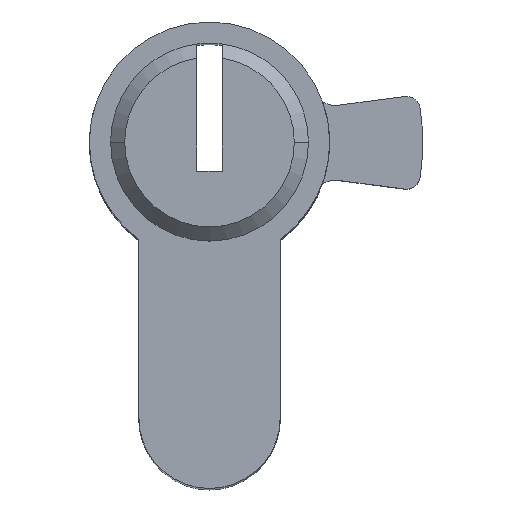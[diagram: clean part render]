
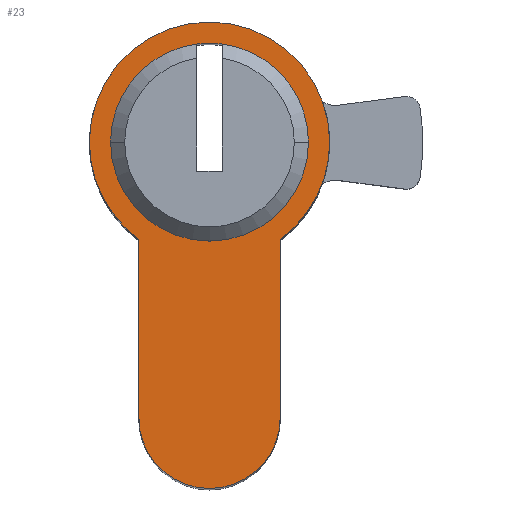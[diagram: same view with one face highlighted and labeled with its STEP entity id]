
A CAD part, top view. The second image highlights one B-rep face of the part: STEP entity #23.
In plain terms, the highlighted planar face has unit normal (0, 0, 1).
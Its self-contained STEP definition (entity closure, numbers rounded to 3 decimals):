
#23 = ADVANCED_FACE ( 'NONE', ( #1285, #68 ), #211, .T. ) ;
#27 = CARTESIAN_POINT ( 'NONE',  ( 0., 0., 30. ) ) ;
#34 = CARTESIAN_POINT ( 'NONE',  ( 7., 0., 30. ) ) ;
#41 = CARTESIAN_POINT ( 'NONE',  ( 5., -19.5, 30. ) ) ;
#68 = FACE_OUTER_BOUND ( 'NONE', #1658, .T. ) ;
#86 = CIRCLE ( 'NONE', #1634, 8.5 ) ;
#153 = CARTESIAN_POINT ( 'NONE',  ( 0., 0., 30. ) ) ;
#156 = VERTEX_POINT ( 'NONE', #1596 ) ;
#186 = CARTESIAN_POINT ( 'NONE',  ( -0.9, 6.942, 30. ) ) ;
#191 = DIRECTION ( 'NONE',  ( 1., 0., 0. ) ) ;
#211 = PLANE ( 'NONE',  #725 ) ;
#221 = CARTESIAN_POINT ( 'NONE',  ( 0., 0., 30. ) ) ;
#234 = EDGE_CURVE ( 'NONE', #1486, #935, #1326, .T. ) ;
#241 = DIRECTION ( 'NONE',  ( 1., 0., 0. ) ) ;
#271 = CARTESIAN_POINT ( 'NONE',  ( -5., -6.874, 30. ) ) ;
#279 = DIRECTION ( 'NONE',  ( 0., 0., 1. ) ) ;
#289 = DIRECTION ( 'NONE',  ( 1., 0., 0. ) ) ;
#293 = DIRECTION ( 'NONE',  ( 0., 1., 0. ) ) ;
#338 = CARTESIAN_POINT ( 'NONE',  ( 8.5, 0., 30. ) ) ;
#356 = CARTESIAN_POINT ( 'NONE',  ( 0., 0., 30. ) ) ;
#367 = DIRECTION ( 'NONE',  ( 0., 0., 1. ) ) ;
#372 = VECTOR ( 'NONE', #1065, 1000. ) ;
#379 = DIRECTION ( 'NONE',  ( 1., 0., 0. ) ) ;
#389 = ORIENTED_EDGE ( 'NONE', *, *, #1476, .T. ) ;
#420 = EDGE_CURVE ( 'NONE', #627, #1126, #671, .T. ) ;
#421 = AXIS2_PLACEMENT_3D ( 'NONE', #153, #279, #1368 ) ;
#434 = ORIENTED_EDGE ( 'NONE', *, *, #1223, .T. ) ;
#456 = CARTESIAN_POINT ( 'NONE',  ( 0., 0., 30. ) ) ;
#462 = DIRECTION ( 'NONE',  ( 1., 0., 0. ) ) ;
#525 = CARTESIAN_POINT ( 'NONE',  ( 5., -6.874, 30. ) ) ;
#534 = AXIS2_PLACEMENT_3D ( 'NONE', #1583, #367, #379 ) ;
#550 = DIRECTION ( 'NONE',  ( 1., 0., 0. ) ) ;
#553 = ORIENTED_EDGE ( 'NONE', *, *, #1142, .F. ) ;
#560 = CIRCLE ( 'NONE', #1728, 7. ) ;
#567 = CARTESIAN_POINT ( 'NONE',  ( 0.9, 6.942, 30. ) ) ;
#573 = VERTEX_POINT ( 'NONE', #944 ) ;
#617 = AXIS2_PLACEMENT_3D ( 'NONE', #221, #1450, #241 ) ;
#627 = VERTEX_POINT ( 'NONE', #186 ) ;
#665 = ORIENTED_EDGE ( 'NONE', *, *, #1714, .T. ) ;
#667 = VERTEX_POINT ( 'NONE', #338 ) ;
#671 = CIRCLE ( 'NONE', #901, 7. ) ;
#703 = AXIS2_PLACEMENT_3D ( 'NONE', #988, #1526, #1261 ) ;
#708 = CARTESIAN_POINT ( 'NONE',  ( 5., -19.5, 30. ) ) ;
#725 = AXIS2_PLACEMENT_3D ( 'NONE', #1406, #1695, #462 ) ;
#768 = DIRECTION ( 'NONE',  ( 0., 0., 1. ) ) ;
#901 = AXIS2_PLACEMENT_3D ( 'NONE', #356, #768, #1455 ) ;
#928 = ORIENTED_EDGE ( 'NONE', *, *, #1420, .F. ) ;
#935 = VERTEX_POINT ( 'NONE', #41 ) ;
#944 = CARTESIAN_POINT ( 'NONE',  ( -5., -6.874, 30. ) ) ;
#988 = CARTESIAN_POINT ( 'NONE',  ( 0., 0., 30. ) ) ;
#999 = VERTEX_POINT ( 'NONE', #567 ) ;
#1053 = VECTOR ( 'NONE', #293, 1000. ) ;
#1065 = DIRECTION ( 'NONE',  ( 0., -1., 0. ) ) ;
#1093 = DIRECTION ( 'NONE',  ( 0., 0., 1. ) ) ;
#1110 = DIRECTION ( 'NONE',  ( 0., 0., 1. ) ) ;
#1126 = VERTEX_POINT ( 'NONE', #1569 ) ;
#1133 = CIRCLE ( 'NONE', #421, 8.5 ) ;
#1142 = EDGE_CURVE ( 'NONE', #1465, #999, #1588, .T. ) ;
#1223 = EDGE_CURVE ( 'NONE', #667, #156, #86, .T. ) ;
#1226 = ORIENTED_EDGE ( 'NONE', *, *, #1254, .F. ) ;
#1249 = CARTESIAN_POINT ( 'NONE',  ( 0., 0., 30. ) ) ;
#1254 = EDGE_CURVE ( 'NONE', #999, #627, #1492, .T. ) ;
#1261 = DIRECTION ( 'NONE',  ( 1., 0., 0. ) ) ;
#1275 = ORIENTED_EDGE ( 'NONE', *, *, #234, .T. ) ;
#1280 = DIRECTION ( 'NONE',  ( 0., 0., 1. ) ) ;
#1285 = FACE_BOUND ( 'NONE', #1485, .T. ) ;
#1326 = CIRCLE ( 'NONE', #534, 5. ) ;
#1336 = LINE ( 'NONE', #271, #372 ) ;
#1368 = DIRECTION ( 'NONE',  ( 1., 0., 0. ) ) ;
#1377 = VERTEX_POINT ( 'NONE', #525 ) ;
#1406 = CARTESIAN_POINT ( 'NONE',  ( 0., 0., 30. ) ) ;
#1420 = EDGE_CURVE ( 'NONE', #1126, #1465, #560, .T. ) ;
#1442 = EDGE_CURVE ( 'NONE', #935, #1377, #1524, .T. ) ;
#1450 = DIRECTION ( 'NONE',  ( 0., 0., 1. ) ) ;
#1455 = DIRECTION ( 'NONE',  ( 1., 0., 0. ) ) ;
#1457 = ORIENTED_EDGE ( 'NONE', *, *, #1442, .T. ) ;
#1465 = VERTEX_POINT ( 'NONE', #34 ) ;
#1476 = EDGE_CURVE ( 'NONE', #1377, #667, #1133, .T. ) ;
#1485 = EDGE_LOOP ( 'NONE', ( #1226, #553, #928, #1734 ) ) ;
#1486 = VERTEX_POINT ( 'NONE', #1503 ) ;
#1492 = CIRCLE ( 'NONE', #703, 7. ) ;
#1495 = CIRCLE ( 'NONE', #1593, 8.5 ) ;
#1503 = CARTESIAN_POINT ( 'NONE',  ( -5., -19.5, 30. ) ) ;
#1524 = LINE ( 'NONE', #708, #1053 ) ;
#1526 = DIRECTION ( 'NONE',  ( 0., 0., 1. ) ) ;
#1564 = ORIENTED_EDGE ( 'NONE', *, *, #1652, .T. ) ;
#1569 = CARTESIAN_POINT ( 'NONE',  ( -7., 0., 30. ) ) ;
#1583 = CARTESIAN_POINT ( 'NONE',  ( 0., -19.5, 30. ) ) ;
#1588 = CIRCLE ( 'NONE', #617, 7. ) ;
#1593 = AXIS2_PLACEMENT_3D ( 'NONE', #456, #1280, #191 ) ;
#1596 = CARTESIAN_POINT ( 'NONE',  ( -8.5, 0., 30. ) ) ;
#1634 = AXIS2_PLACEMENT_3D ( 'NONE', #27, #1093, #289 ) ;
#1652 = EDGE_CURVE ( 'NONE', #156, #573, #1495, .T. ) ;
#1658 = EDGE_LOOP ( 'NONE', ( #389, #434, #1564, #665, #1275, #1457 ) ) ;
#1695 = DIRECTION ( 'NONE',  ( 0., 0., 1. ) ) ;
#1714 = EDGE_CURVE ( 'NONE', #573, #1486, #1336, .T. ) ;
#1728 = AXIS2_PLACEMENT_3D ( 'NONE', #1249, #1110, #550 ) ;
#1734 = ORIENTED_EDGE ( 'NONE', *, *, #420, .F. ) ;
